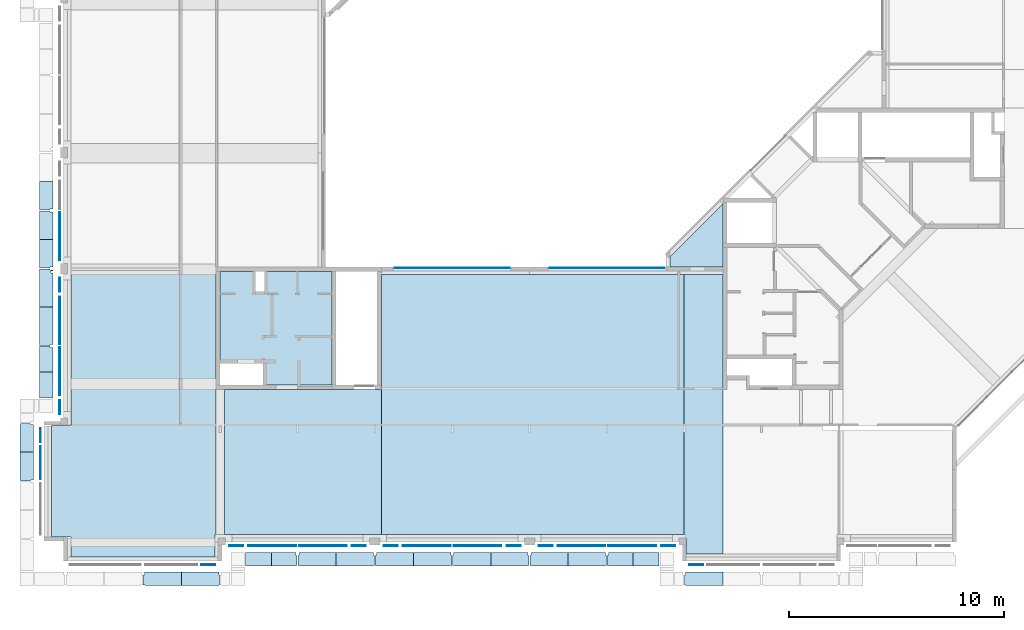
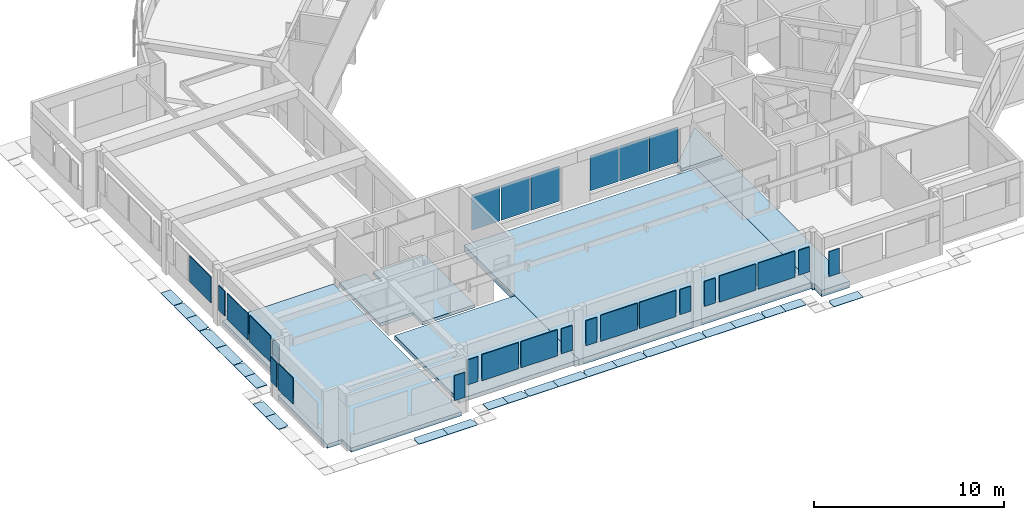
# One storey, part 4 of 26: 30 slabs, 27 plates.
"""IFC4X3_ADD2 building model written with IfcOpenShell, lengths in millimetres."""

from ifc_helpers import new_model, si_unit, direction, frame, frame_2d, origin_with_axes, origin_2d_with_axis, place, context, subcontext, project, spatial, polyline, rectangle, outline, extrude, source, transform, mapped, material, type_object, element, save


model = new_model("IFC4X3_ADD2")

# Units and contexts
model_context = context("Model", 3, precision=1e-05, world=origin_with_axes(), true_north=direction((0.0, 1.0)))
body_context = subcontext(model_context, "Body", "Model", "MODEL_VIEW")
ifc_project = project(units=[si_unit("LENGTHUNIT", "METRE", prefix="MILLI"), si_unit("AREAUNIT", "SQUARE_METRE"), si_unit("VOLUMEUNIT", "CUBIC_METRE"), si_unit("PLANEANGLEUNIT", "RADIAN"), si_unit("TIMEUNIT", "SECOND"), si_unit("MASSUNIT", "GRAM")], contexts=[model_context])

# Site, building, storey
site_placement = place(None, origin_with_axes())
site = spatial("IfcSite", under=ifc_project, at=site_placement, Name="Site", CompositionType="ELEMENT")
building_placement = place(site_placement, origin_with_axes())
building = spatial("IfcBuilding", under=site, at=building_placement, Name="IFC Building Story")
storey_placement = place(building_placement, frame((0.0, 0.0, 7200.0), z_axis=(0.0, 0.0, 1.0), x_axis=(1.0, 0.0, 0.0)))
storey = spatial("IfcBuildingStorey", under=building, at=storey_placement, Name="020", Elevation=7200.0)

# Slabs
ifc_material_1 = material(Name="BB_Beton_Bestaand")
slab_type_1 = type_object("IfcSlabType", Name="BB_Beton_Bestaand 200", PredefinedType="FLOOR", material=ifc_material_1)
slab_1_placement = place(storey_placement, frame((-43500.00000000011, 12500.00406588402, -280.0), z_axis=(0.0, 0.0, 1.0), x_axis=(0.0, -1.0, 0.0)))
element("IfcSlab", 1, at=slab_1_placement, inside=storey, type_object=slab_type_1, Name="Floor:BB_XX_Vloer uit beton, 200 mm", ObjectType="Floor:BB_XX_Vloer uit beton, 200 mm", PredefinedType="FLOOR", context=body_context, shape_type="SweptSolid", body=[
    extrude(outline(polyline([(3190.00243953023, -181.9999999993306), (2190.00243953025, -181.9999999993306), (2190.00243953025, -2182.000000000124), (-2110.00162635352, -2182.000000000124), (-2110.00162635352, -532.0000000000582), (-1160.001626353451, -532.0000000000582), (-1160.001626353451, -122.0000000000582), (-2110.001626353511, -122.0000000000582), (-2110.00162635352, 3017.999999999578), (3190.00243953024, 3017.999999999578), (3190.00243953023, -181.9999999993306)])), frame((2110.00162635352, 2182.000000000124, 0.0), z_axis=(0.0, 0.0, 1.0), x_axis=(1.0, 0.0, 0.0)), (0.0, 0.0, 1.0), 200.0),
])
slab_2_placement = place(storey_placement, frame((-20099.99999999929, 15635.57209645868, -400.0), z_axis=(0.0, 0.0, 1.0), x_axis=(-0.7071067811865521, -0.707106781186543, 0.0)))
element("IfcSlab", 2, at=slab_2_placement, inside=storey, type_object=slab_type_1, Name="Floor:BB_XX_Vloer uit beton, 200 mm:2", ObjectType="Floor:BB_XX_Vloer uit beton, 200 mm", PredefinedType="FLOOR", context=body_context, shape_type="SweptSolid", body=[
    extrude(outline(polyline([(-262.2344113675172, 1473.608533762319), (1473.608533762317, -262.234411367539), (1130.155883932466, -605.6870611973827), (-2341.530006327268, -605.6870611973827), (-262.2344113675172, 1473.608533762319)])), frame((2341.530006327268, 605.6870611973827, 0.0), z_axis=(0.0, 0.0, 1.0), x_axis=(1.0, 0.0, 0.0)), (0.0, 0.0, 1.0), 200.0),
])
slab_type_2 = type_object("IfcSlabType", Name="BB_Beton_Bestaand 400", PredefinedType="FLOOR", material=ifc_material_1)
slab_3_placement = place(storey_placement, frame((-36000.00000000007, 244.9999999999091, -600.0), z_axis=(0.0, 0.0, 1.0), x_axis=(1.0, 0.0, 0.0)))
element("IfcSlab", 3, at=slab_3_placement, inside=storey, type_object=slab_type_2, Name="Floor:BB_XX_Vloer welfsels, 400 mm", ObjectType="Floor:BB_XX_Vloer welfsels, 400 mm", PredefinedType="FLOOR", context=body_context, shape_type="SweptSolid", body=[
    extrude(rectangle(XDim=14100.00000000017, YDim=12110.0000000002, at=origin_2d_with_axis()), frame((7050.00000000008, 6055.000000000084, 0.0), z_axis=(0.0, 0.0, 1.0), x_axis=(1.0, 0.0, 0.0)), (0.0, 0.0, 1.0), 400.0),
])
slab_4_placement = place(storey_placement, frame((-21900.00000000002, 12360.00406588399, -600.0), z_axis=(0.0, 0.0, 1.0), x_axis=(0.0, -1.0, 0.0)))
element("IfcSlab", 4, at=slab_4_placement, inside=storey, type_object=slab_type_2, Name="Floor:BB_XX_Vloer welfsels, 400 mm", ObjectType="Floor:BB_XX_Vloer welfsels, 400 mm", PredefinedType="FLOOR", context=body_context, shape_type="SweptSolid", body=[
    extrude(outline(polyline([(4588.334688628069, -536.6666666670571), (3838.3346886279, -536.6666666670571), (3838.3346886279, -631.6666666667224), (-8426.66937725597, -631.6666666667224), (-8426.66937725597, 1168.33333333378), (4588.334688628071, 1168.33333333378), (4588.334688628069, -536.6666666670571)])), frame((8426.66937725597, 631.6666666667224, 0.0), z_axis=(0.0, 0.0, 1.0), x_axis=(1.0, 0.0, 0.0)), (0.0, 0.0, 1.0), 400.0),
])

# Plates
ifc_material_2 = material(Name="BB_Glas")
shared_shape_1 = source(origin_with_axes(), body_context, "Body", "SweptSolid", [
    extrude(rectangle(XDim=1602.000000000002, YDim=652.000000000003, at=frame_2d((0.0, 0.0), x_axis=(0.0, 1.0))), frame((0.0, 0.0, -44.0), z_axis=(0.0, 0.0, 1.0), x_axis=(1.0, 0.0, 0.0)), (0.0, 0.0, 1.0), 44.0),
])
for number, where, z_axis, x_axis in (
    (5, (-28356.0, -287.499999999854, 1765.0), (0.0, -1.0, 0.0), (1.0, 0.0, 0.0)),
    (6, (-22644.0, -287.499999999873, 1765.0), (0.0, -1.0, 0.0), (1.0, 0.0, 0.0)),
    (7, (-21336.0, -1187.50000000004, 1765.0), (0.0, -1.0, 0.0), (1.0, 0.0, 0.0)),
    (8, (-35556.0, -287.499999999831, 1765.0), (0.0, -1.0, 0.0), (1.0, 0.0, 0.0)),
    (9, (-29844.0, -287.49999999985, 1765.0), (0.0, -1.0, 0.0), (1.0, 0.0, 0.0)),
    (10, (-42756.0, -287.499999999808, 1765.0), (0.0, -1.0, 0.0), (1.0, 0.0, 0.0)),
    (11, (-37044.0, -287.499999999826, 1765.0), (0.0, -1.0, 0.0), (1.0, 0.0, 0.0)),
    (12, (-51887.5000000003, 4866.0, 1765.0), (-1.0, 0.0, 0.0), (0.0, -1.0, 0.0)),
    (13, (-50987.4999999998, 11886.0, 1765.0), (-1.0, 0.0, 0.0), (0.0, -1.0, 0.0)),
    (14, (-50987.4999999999, 6174.0, 1765.0), (-1.0, 0.0, 0.0), (0.0, -1.0, 0.0)),
):
    element("IfcPlate", number, at=place(storey_placement, frame(where, z_axis=z_axis, x_axis=x_axis)), inside=storey, material=ifc_material_2, Name="BB_07.06_Buitenbeglazing, rechthoekig_GMO:07.06.72#01_Drievoudige beglazing, 44 mm, A/A*/A", ObjectType="BB_07.06_Buitenbeglazing, rechthoekig_GMO:07.06.72#01_Drievoudige beglazing, 44 mm, A/A*/A", PredefinedType="USERDEFINED", context=body_context, shape_type="MappedRepresentation", body=[
        mapped(shared_shape_1, transform((0.0, 0.0, 0.0))),
    ])
shared_shape_2 = source(origin_with_axes(), body_context, "Body", "SweptSolid", [
    extrude(rectangle(XDim=2222.0, YDim=1680.000000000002, at=origin_2d_with_axis()), frame((0.0, 0.0, -44.0), z_axis=(0.0, 0.0, 1.0), x_axis=(1.0, 0.0, 0.0)), (0.0, 0.0, 1.0), 44.0),
])
for number, where, z_axis, x_axis in (
    (15, (-26681.0, -287.499999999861, 1765.0), (0.0, -1.0, 0.0), (1.0, 0.0, 0.0)),
    (16, (-24319.0, -287.499999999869, 1765.0), (0.0, -1.0, 0.0), (1.0, 0.0, 0.0)),
    (17, (-33881.0, -287.499999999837, 1765.0), (0.0, -1.0, 0.0), (1.0, 0.0, 0.0)),
    (18, (-31519.0, -287.499999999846, 1765.0), (0.0, -1.0, 0.0), (1.0, 0.0, 0.0)),
    (19, (-41081.0, -287.499999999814, 1765.0), (0.0, -1.0, 0.0), (1.0, 0.0, 0.0)),
    (20, (-38719.0, -287.499999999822, 1765.0), (0.0, -1.0, 0.0), (1.0, 0.0, 0.0)),
    (21, (-50987.4999999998, 10211.0, 1765.0), (-1.0, 0.0, 0.0), (0.0, -1.0, 0.0)),
    (22, (-50987.4999999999, 7849.0, 1765.0), (-1.0, 0.0, 0.0), (0.0, -1.0, 0.0)),
):
    element("IfcPlate", number, at=place(storey_placement, frame(where, z_axis=z_axis, x_axis=x_axis)), inside=storey, material=ifc_material_2, Name="BB_07.06_Buitenbeglazing, rechthoekig_GMO:07.06.72#01_Drievoudige beglazing, 44 mm, A/A*/A", ObjectType="BB_07.06_Buitenbeglazing, rechthoekig_GMO:07.06.72#01_Drievoudige beglazing, 44 mm, A/A*/A", PredefinedType="USERDEFINED", context=body_context, shape_type="MappedRepresentation", body=[
        mapped(shared_shape_2, transform((0.0, 0.0, 0.0))),
    ])
shared_shape_3 = source(origin_with_axes(), body_context, "Body", "SweptSolid", [
    extrude(rectangle(XDim=1602.000000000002, YDim=652.0000000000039, at=frame_2d((0.0, 0.0), x_axis=(0.0, 1.0))), frame((0.0, 0.0, -44.0), z_axis=(0.0, 0.0, 1.0), x_axis=(1.0, 0.0, 0.0)), (0.0, 0.0, 1.0), 44.0),
])
plate_1_placement = place(storey_placement, frame((-44064.0, -1187.49999999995, 1765.0), z_axis=(0.0, -1.0, 0.0), x_axis=(-1.0, 0.0, 0.0)))
element("IfcPlate", 23, at=plate_1_placement, inside=storey, material=ifc_material_2, Name="BB_07.06_Buitenbeglazing, rechthoekig_GMO:07.06.72#01_Drievoudige beglazing, 44 mm, A/A*/A", ObjectType="BB_07.06_Buitenbeglazing, rechthoekig_GMO:07.06.72#01_Drievoudige beglazing, 44 mm, A/A*/A", PredefinedType="USERDEFINED", context=body_context, shape_type="MappedRepresentation", body=[
    mapped(shared_shape_3, transform((0.0, 0.0, 0.0))),
])
shared_shape_4 = source(origin_with_axes(), body_context, "Body", "SweptSolid", [
    extrude(rectangle(XDim=1680.000000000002, YDim=1532.000000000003, at=frame_2d((0.0, 0.0), x_axis=(0.0, 1.0))), frame((0.0, 0.0, -44.0), z_axis=(0.0, 0.0, 1.0), x_axis=(1.0, 0.0, 0.0)), (0.0, 0.0, 1.0), 44.0),
])
plate_2_placement = place(storey_placement, frame((-51887.5000000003, 3596.0, 1765.0), z_axis=(-1.0, 0.0, 0.0), x_axis=(0.0, -1.0, 0.0)))
element("IfcPlate", 24, at=plate_2_placement, inside=storey, material=ifc_material_2, Name="BB_07.06_Buitenbeglazing, rechthoekig_GMO:07.06.72#01_Drievoudige beglazing, 44 mm, A/A*/A", ObjectType="BB_07.06_Buitenbeglazing, rechthoekig_GMO:07.06.72#01_Drievoudige beglazing, 44 mm, A/A*/A", PredefinedType="USERDEFINED", context=body_context, shape_type="MappedRepresentation", body=[
    mapped(shared_shape_4, transform((0.0, 0.0, 0.0))),
])
shared_shape_5 = source(origin_with_axes(), body_context, "Body", "SweptSolid", [
    extrude(rectangle(XDim=2250.0, YDim=1680.000000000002, at=origin_2d_with_axis()), frame((0.0, 0.0, -44.0), z_axis=(0.0, 0.0, 1.0), x_axis=(1.0, 0.0, 0.0)), (0.0, 0.0, 1.0), 44.0),
])
plate_3_placement = place(storey_placement, frame((-50987.4999999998, 14135.0, 1765.0), z_axis=(-1.0, 0.0, 0.0), x_axis=(0.0, 1.0, 0.0)))
element("IfcPlate", 25, at=plate_3_placement, inside=storey, material=ifc_material_2, Name="BB_07.06_Buitenbeglazing, rechthoekig_GMO:07.06.72#01_Drievoudige beglazing, 44 mm, A/A*/A", ObjectType="BB_07.06_Buitenbeglazing, rechthoekig_GMO:07.06.72#01_Drievoudige beglazing, 44 mm, A/A*/A", PredefinedType="USERDEFINED", context=body_context, shape_type="MappedRepresentation", body=[
    mapped(shared_shape_5, transform((0.0, 0.0, 0.0))),
])
shared_shape_6 = source(origin_with_axes(), body_context, "Body", "SweptSolid", [
    extrude(rectangle(XDim=2256.0, YDim=1736.000000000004, at=frame_2d((0.0, 0.0), x_axis=(0.0, 1.0))), frame((0.0, 0.0, -17.0), z_axis=(0.0, 0.0, 1.0), x_axis=(1.0, 0.0, 0.0)), (0.0, 0.0, 1.0), 17.0),
])
for number, where, z_axis, x_axis in (
    (26, (-25500.0, 12671.504065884, 1475.0), (0.0, 1.0, 0.0), (-1.0, 0.0, 0.0)),
    (27, (-23700.0, 12671.504065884, 1475.0), (0.0, 1.0, 0.0), (-1.0, 0.0, 0.0)),
    (28, (-32700.0, 12671.504065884, 1475.0), (0.0, 1.0, 0.0), (-1.0, 0.0, 0.0)),
    (29, (-30900.0, 12671.504065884, 1475.0), (0.0, 1.0, 0.0), (-1.0, 0.0, 0.0)),
    (30, (-27300.0, 12671.504065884, 1475.0), (0.0, 1.0, 0.0), (-1.0, 0.0, 0.0)),
    (31, (-34500.0, 12671.504065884, 1475.0), (0.0, 1.0, 0.0), (-1.0, 0.0, 0.0)),
):
    element("IfcPlate", number, at=place(storey_placement, frame(where, z_axis=z_axis, x_axis=x_axis)), inside=storey, material=ifc_material_2, Name="BB_10.10_Binnenbeglazing, rechthoekig_GMO:10.10.41#02_Enkelvoudige beglazing, 2B2, EI30, 40dB", ObjectType="BB_10.10_Binnenbeglazing, rechthoekig_GMO:10.10.41#02_Enkelvoudige beglazing, 2B2, EI30, 40dB", PredefinedType="USERDEFINED", context=body_context, shape_type="MappedRepresentation", body=[
        mapped(shared_shape_6, transform((0.0, 0.0, 0.0))),
    ])

# Slabs
slab_type_3 = type_object("IfcSlabType", Name="BB_Beton_Bestaand 260", PredefinedType="FLOOR", material=ifc_material_1)
slab_5_placement = place(storey_placement, frame((-51355.00000000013, 12700.00406588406, -460.0), z_axis=(0.0, 0.0, 1.0), x_axis=(0.0, -1.0, 0.0)))
element("IfcSlab", 32, at=slab_5_placement, inside=storey, type_object=slab_type_3, Name="Floor:BB_XX_Vloer welfsels, 260 mm", ObjectType="Floor:BB_XX_Vloer welfsels, 260 mm", PredefinedType="FLOOR", context=body_context, shape_type="SweptSolid", body=[
    extrude(outline(polyline([(4325.000813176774, -2513.000000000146), (3395.000813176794, -2513.000000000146), (3395.000813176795, -3413.000000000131), (-1814.999186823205, -3413.000000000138), (-1814.999186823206, -2512.999999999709), (-9180.003252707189, -2512.999999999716), (-9180.003252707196, 4242.000000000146), (3275.000813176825, 4242.000000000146), (3275.000813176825, 4196.999999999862), (4325.000813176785, 4196.999999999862), (4325.000813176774, -2513.000000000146)])), frame((9180.003252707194, 3413.000000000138, 0.0), z_axis=(0.0, 0.0, 1.0), x_axis=(1.0, 0.0, 0.0)), (0.0, 0.0, 1.0), 260.0),
])
slab_6_placement = place(storey_placement, frame((-43300.00000000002, 245.0, -460.0), z_axis=(0.0, 0.0, 1.0), x_axis=(1.0, 0.0, 0.0)))
element("IfcSlab", 33, at=slab_6_placement, inside=storey, type_object=slab_type_3, Name="Floor:BB_XX_Vloer welfsels, 260 mm", ObjectType="Floor:BB_XX_Vloer welfsels, 260 mm", PredefinedType="FLOOR", context=body_context, shape_type="SweptSolid", body=[
    extrude(rectangle(XDim=7300.000000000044, YDim=6755.00000000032, at=origin_2d_with_axis()), frame((3650.000000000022, 3377.50000000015, 0.0), z_axis=(0.0, 0.0, 1.0), x_axis=(1.0, 0.0, 0.0)), (0.0, 0.0, 1.0), 260.0),
])
ifc_material_3 = material(Name="Steel, Galvanized - looprooster")
slab_type_4 = type_object("IfcSlabType", Name="Steel, Galvanized - looprooster 30", PredefinedType="FLOOR", material=ifc_material_3)
slab_7_placement = place(storey_placement, frame((-51919.99839785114, 16679.99796376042, -350.0), z_axis=(0.0, 0.0, 1.0), x_axis=(0.0, -1.0, 0.0)))
element("IfcSlab", 34, at=slab_7_placement, inside=storey, type_object=slab_type_4, Name="Floor:GVH - Looprooster 30 mm", ObjectType="Floor:GVH - Looprooster 30 mm", PredefinedType="FLOOR", context=body_context, shape_type="SweptSolid", body=[
    extrude(outline(polyline([(368.499500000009, -267.5006947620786), (281.4995000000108, -267.5006947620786), (281.4995000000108, -282.4989546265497), (-966.4985000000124, -282.4989546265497), (-966.4985000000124, 347.5010453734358), (316.4995000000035, 347.5010453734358), (316.4995000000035, 202.498604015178), (368.499500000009, 202.498604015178), (368.499500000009, -267.5006947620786)])), frame((966.4985000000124, 282.4989546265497, 0.0), z_axis=(0.0, 0.0, 1.0), x_axis=(1.0, 0.0, 0.0)), (0.0, 0.0, 1.0), 29.99999999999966),
])
slab_8_placement = place(storey_placement, frame((-52819.99783771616, 4080.001963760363, -350.0), z_axis=(0.0, 0.0, 1.0), x_axis=(0.0, -1.0, 0.0)))
element("IfcSlab", 35, at=slab_8_placement, inside=storey, type_object=slab_type_4, Name="Floor:GVH - Looprooster 30 mm", ObjectType="Floor:GVH - Looprooster 30 mm", PredefinedType="FLOOR", context=body_context, shape_type="SweptSolid", body=[
    extrude(outline(polyline([(368.5004999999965, -267.5009748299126), (281.5004999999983, -267.5009748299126), (281.5004999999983, -282.4986745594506), (-966.5014999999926, -282.4986745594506), (-966.5014999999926, 347.5013254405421), (316.5004999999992, 347.5013254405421), (316.5004999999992, 202.4983239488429), (368.5004999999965, 202.4983239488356), (368.5004999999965, -267.5009748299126)])), frame((966.5014999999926, 282.4986745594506, 0.0), z_axis=(0.0, 0.0, 1.0), x_axis=(1.0, 0.0, 0.0)), (0.0, 0.0, 1.0), 29.99999999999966),
])
slab_9_placement = place(storey_placement, frame((-41122.49796376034, -1219.998397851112, -350.0), z_axis=(0.0, 0.0, 1.0), x_axis=(1.0, 0.0, 0.0)))
element("IfcSlab", 36, at=slab_9_placement, inside=storey, type_object=slab_type_4, Name="Floor:GVH - Looprooster 30 mm", ObjectType="Floor:GVH - Looprooster 30 mm", PredefinedType="FLOOR", context=body_context, shape_type="SweptSolid", body=[
    extrude(outline(polyline([(275.874500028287, -267.4995632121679), (275.874500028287, -282.4992199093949), (-879.6235000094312, -282.4992199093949), (-879.6235000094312, 347.5004367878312), (275.8744999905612, 347.5004367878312), (275.8744999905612, 202.4983463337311), (327.8744999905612, 202.4983463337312), (327.8744999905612, -267.4995632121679), (275.874500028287, -267.4995632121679)])), frame((879.6235000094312, 282.4992199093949, 0.0), z_axis=(0.0, 0.0, 1.0), x_axis=(1.0, 0.0, 0.0)), (0.0, 0.0, 1.0), 29.99999999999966),
])
slab_10_placement = place(storey_placement, frame((-38100.00196372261, -1219.99839785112, -350.0), z_axis=(0.0, 0.0, 1.0), x_axis=(1.0, 0.0, 0.0)))
element("IfcSlab", 37, at=slab_10_placement, inside=storey, type_object=slab_type_4, Name="Floor:GVH - Looprooster 30 mm", ObjectType="Floor:GVH - Looprooster 30 mm", PredefinedType="FLOOR", context=body_context, shape_type="SweptSolid", body=[
    extrude(outline(polyline([(420.0005000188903, -267.499561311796), (420.0005000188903, -282.499218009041), (-1313.001499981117, -282.499218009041), (-1313.001499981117, 347.500438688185), (420.5004999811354, 347.500438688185), (420.5004999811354, 202.498340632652), (472.5004999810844, 202.498340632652), (472.5004999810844, -267.499561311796), (420.0005000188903, -267.499561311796)])), frame((1313.001499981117, 282.499218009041, 0.0), z_axis=(0.0, 0.0, 1.0), x_axis=(1.0, 0.0, 0.0)), (0.0, 0.0, 1.0), 29.99999999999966),
])
slab_11_placement = place(storey_placement, frame((-51919.99797688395, 13979.49796376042, -350.0), z_axis=(0.0, 0.0, 1.0), x_axis=(0.0, -1.0, 0.0)))
element("IfcSlab", 38, at=slab_11_placement, inside=storey, type_object=slab_type_4, Name="Floor:GVH - Looprooster 30 mm", ObjectType="Floor:GVH - Looprooster 30 mm", PredefinedType="FLOOR", context=body_context, shape_type="SweptSolid", body=[
    extrude(outline(polyline([(359.624449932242, -267.5006947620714), (307.6246502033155, -267.5006947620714), (307.6246502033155, -282.4989546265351), (-974.873550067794, -282.4989546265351), (-974.873550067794, 347.5010453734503), (307.6244499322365, 347.5010453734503), (307.6244499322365, 202.4986040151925), (359.624449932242, 202.4986040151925), (359.624449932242, -267.5006947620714)])), frame((974.873550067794, 282.4989546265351, 0.0), z_axis=(0.0, 0.0, 1.0), x_axis=(1.0, 0.0, 0.0)), (0.0, 0.0, 1.0), 29.99999999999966),
])
slab_12_placement = place(storey_placement, frame((-51919.99797688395, 15314.99596376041, -350.0), z_axis=(0.0, 0.0, 1.0), x_axis=(0.0, -1.0, 0.0)))
element("IfcSlab", 39, at=slab_12_placement, inside=storey, type_object=slab_type_4, Name="Floor:GVH - Looprooster 30 mm", ObjectType="Floor:GVH - Looprooster 30 mm", PredefinedType="FLOOR", context=body_context, shape_type="SweptSolid", body=[
    extrude(outline(polyline([(-316.4974999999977, 347.5010453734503), (966.4964999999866, 347.5010453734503), (966.4964999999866, -282.4989546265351), (-281.5014999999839, -282.4989546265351), (-281.5014999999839, -267.5006947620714), (-368.4975000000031, -267.5006947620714), (-368.4975000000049, 202.4986040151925), (-316.4974999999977, 202.4986040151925), (-316.4974999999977, 347.5010453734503)])), frame((368.4975000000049, 282.4989546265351, 0.0), z_axis=(0.0, 0.0, 1.0), x_axis=(1.0, 0.0, 0.0)), (0.0, 0.0, 1.0), 29.99999999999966),
])
slab_13_placement = place(storey_placement, frame((-51919.99839785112, 12614.99596376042, -350.0), z_axis=(0.0, 0.0, 1.0), x_axis=(0.0, -1.0, 0.0)))
element("IfcSlab", 40, at=slab_13_placement, inside=storey, type_object=slab_type_4, Name="Floor:GVH - Looprooster 30 mm", ObjectType="Floor:GVH - Looprooster 30 mm", PredefinedType="FLOOR", context=body_context, shape_type="SweptSolid", body=[
    extrude(outline(polyline([(-178.0816339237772, 246.667989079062), (1421.412366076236, 246.667989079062), (1421.412366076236, -383.3320109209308), (-311.0858303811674, -383.3320109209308), (-311.0858303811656, -368.3342997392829), (-363.0816339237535, -368.3342997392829), (-363.0816339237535, 101.6655477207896), (-311.0816339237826, 101.6655477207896), (-311.0816339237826, 246.667989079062), (-258.0816339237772, 246.667989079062), (-258.0816339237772, 156.6647847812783), (-178.0816339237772, 156.6647847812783), (-178.0816339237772, 246.667989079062)])), frame((363.0816339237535, 383.3320109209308, 0.0), z_axis=(0.0, 0.0, 1.0), x_axis=(1.0, 0.0, 0.0)), (0.0, 0.0, 1.0), 29.9999999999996),
])
slab_14_placement = place(storey_placement, frame((-51919.99839785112, 10829.49796185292, -350.0), z_axis=(0.0, 0.0, 1.0), x_axis=(0.0, -1.0, 0.0)))
element("IfcSlab", 41, at=slab_14_placement, inside=storey, type_object=slab_type_4, Name="Floor:GVH - Looprooster 30 mm", ObjectType="Floor:GVH - Looprooster 30 mm", PredefinedType="FLOOR", context=body_context, shape_type="SweptSolid", body=[
    extrude(outline(polyline([(472.1264494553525, -267.5017166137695), (420.1226497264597, -267.5017166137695), (420.1226497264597, -282.4994277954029), (-1312.375548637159, -282.4994277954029), (-1312.375548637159, 347.5005722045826), (420.126449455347, 347.5005722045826), (420.126449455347, 202.5005722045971), (472.1264494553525, 202.5005722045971), (472.1264494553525, -267.5017166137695)])), frame((1312.375548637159, 282.4994277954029, 0.0), z_axis=(0.0, 0.0, 1.0), x_axis=(1.0, 0.0, 0.0)), (0.0, 0.0, 1.0), 29.99999999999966),
])
slab_15_placement = place(storey_placement, frame((-51919.99595649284, 9014.999963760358, -350.0), z_axis=(0.0, 0.0, 1.0), x_axis=(0.0, -1.0, 0.0)))
element("IfcSlab", 42, at=slab_15_placement, inside=storey, type_object=slab_type_4, Name="Floor:GVH - Looprooster 30 mm", ObjectType="Floor:GVH - Looprooster 30 mm", PredefinedType="FLOOR", context=body_context, shape_type="SweptSolid", body=[
    extrude(outline(polyline([(-275.8744513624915, 347.501045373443), (879.6235505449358, 347.501045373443), (879.6235505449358, -282.4989546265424), (-275.8746478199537, -282.4989546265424), (-275.8746478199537, -267.5006947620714), (-327.8744513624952, -267.5006947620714), (-327.8744513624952, 202.4986040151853), (-275.8744513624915, 202.4986040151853), (-275.8744513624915, 347.501045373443)])), frame((327.8744513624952, 282.4989546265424, 0.0), z_axis=(0.0, 0.0, 1.0), x_axis=(1.0, 0.0, 0.0)), (0.0, 0.0, 1.0), 29.99999999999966),
])
slab_16_placement = place(storey_placement, frame((-51919.99595649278, 7806.499258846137, -350.0), z_axis=(0.0, 0.0, 1.0), x_axis=(0.0, -1.0, 0.0)))
element("IfcSlab", 43, at=slab_16_placement, inside=storey, type_object=slab_type_4, Name="Floor:GVH - Looprooster 30 mm", ObjectType="Floor:GVH - Looprooster 30 mm", PredefinedType="FLOOR", context=body_context, shape_type="SweptSolid", body=[
    extrude(rectangle(XDim=1207.998000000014, YDim=629.9999999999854, at=frame_2d((0.0, 0.0), x_axis=(-1.0, 0.0))), frame((603.9990000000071, 314.9999999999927, 0.0), z_axis=(0.0, 0.0, 1.0), x_axis=(1.0, 0.0, 0.0)), (0.0, 0.0, 1.0), 29.99999999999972),
])
slab_17_placement = place(storey_placement, frame((-36285.00000000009, -1219.99839785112, -350.0), z_axis=(0.0, 0.0, 1.0), x_axis=(1.0, 0.0, 0.0)))
element("IfcSlab", 44, at=slab_17_placement, inside=storey, type_object=slab_type_4, Name="Floor:GVH - Looprooster 30 mm", ObjectType="Floor:GVH - Looprooster 30 mm", PredefinedType="FLOOR", context=body_context, shape_type="SweptSolid", body=[
    extrude(outline(polyline([(-420.2494637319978, -282.499218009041), (-420.2494637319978, -267.499561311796), (-472.2495000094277, -267.499561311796), (-472.2495000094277, 202.498340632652), (-420.2495362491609, 202.498340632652), (-420.2495362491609, 347.500438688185), (1312.748499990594, 347.500438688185), (1312.748499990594, -282.499218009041), (-420.2494637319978, -282.499218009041)])), frame((472.2495000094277, 282.499218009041, 0.0), z_axis=(0.0, 0.0, 1.0), x_axis=(1.0, 0.0, 0.0)), (0.0, 0.0, 1.0), 29.99999999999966),
])
slab_18_placement = place(storey_placement, frame((-32684.99996376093, -1219.998390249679, -350.0), z_axis=(0.0, 0.0, 1.0), x_axis=(1.0, 0.0, 0.0)))
element("IfcSlab", 45, at=slab_18_placement, inside=storey, type_object=slab_type_4, Name="Floor:GVH - Looprooster 30 mm", ObjectType="Floor:GVH - Looprooster 30 mm", PredefinedType="FLOOR", context=body_context, shape_type="SweptSolid", body=[
    extrude(outline(polyline([(-394.2494999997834, -282.4992180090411), (-394.2494999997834, -267.4995613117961), (-480.7495000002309, -267.4995613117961), (-480.7495000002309, 202.4983406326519), (-428.7495000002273, 202.4983406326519), (-428.7495000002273, 347.5004386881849), (1303.74850000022, 347.5004386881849), (1303.74850000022, -282.4992180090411), (-394.2494999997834, -282.4992180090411)])), frame((480.7495000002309, 282.4992180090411, 0.0), z_axis=(0.0, 0.0, 1.0), x_axis=(1.0, 0.0, 0.0)), (0.0, 0.0, 1.0), 29.99999999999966),
])
slab_19_placement = place(storey_placement, frame((-29085.49996376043, -1219.99839785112, -350.0), z_axis=(0.0, 0.0, 1.0), x_axis=(1.0, 0.0, 0.0)))
element("IfcSlab", 46, at=slab_19_placement, inside=storey, type_object=slab_type_4, Name="Floor:GVH - Looprooster 30 mm", ObjectType="Floor:GVH - Looprooster 30 mm", PredefinedType="FLOOR", context=body_context, shape_type="SweptSolid", body=[
    extrude(outline(polyline([(-420.1244728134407, -282.499218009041), (-420.1244728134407, -267.499561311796), (-472.6244728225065, -267.499561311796), (-472.6244728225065, 202.498340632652), (-420.1245453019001, 202.498340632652), (-420.1245453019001, 347.500438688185), (1312.873490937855, 347.500438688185), (1312.873490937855, -282.499218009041), (-420.1244728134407, -282.499218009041)])), frame((472.6244728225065, 282.499218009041, 0.0), z_axis=(0.0, 0.0, 1.0), x_axis=(1.0, 0.0, 0.0)), (0.0, 0.0, 1.0), 29.99999999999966),
])
slab_20_placement = place(storey_placement, frame((-25484.99996376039, -1219.998397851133, -350.0), z_axis=(0.0, 0.0, 1.0), x_axis=(1.0, 0.0, 0.0)))
element("IfcSlab", 47, at=slab_20_placement, inside=storey, type_object=slab_type_4, Name="Floor:GVH - Looprooster 30 mm", ObjectType="Floor:GVH - Looprooster 30 mm", PredefinedType="FLOOR", context=body_context, shape_type="SweptSolid", body=[
    extrude(outline(polyline([(-275.8744909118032, -282.4992180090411), (-275.8744909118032, -267.4995613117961), (-327.8744909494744, -267.4995613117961), (-327.8744909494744, 202.4983406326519), (-275.8745271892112, 202.4983406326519), (-275.8745271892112, 347.5004386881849), (879.6235090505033, 347.5004386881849), (879.6235090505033, -282.4992180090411), (-275.8744909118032, -282.4992180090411)])), frame((327.8744909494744, 282.4992180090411, 0.0), z_axis=(0.0, 0.0, 1.0), x_axis=(1.0, 0.0, 0.0)), (0.0, 0.0, 1.0), 29.99999999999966),
])
slab_21_placement = place(storey_placement, frame((-39884.99996372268, -1219.99839785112, -350.0), z_axis=(0.0, 0.0, 1.0), x_axis=(1.0, 0.0, 0.0)))
element("IfcSlab", 48, at=slab_21_placement, inside=storey, type_object=slab_type_4, Name="Floor:GVH - Looprooster 30 mm", ObjectType="Floor:GVH - Looprooster 30 mm", PredefinedType="FLOOR", context=body_context, shape_type="SweptSolid", body=[
    extrude(outline(polyline([(-420.1254818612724, -282.499218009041), (-420.1254818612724, -267.499561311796), (-472.1254818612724, -267.499561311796), (-472.1254818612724, 202.498340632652), (-420.121554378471, 202.498340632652), (-420.121554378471, 347.500438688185), (1312.372518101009, 347.500438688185), (1312.372518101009, -282.499218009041), (-420.1254818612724, -282.499218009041)])), frame((472.1254818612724, 282.499218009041, 0.0), z_axis=(0.0, 0.0, 1.0), x_axis=(1.0, 0.0, 0.0)), (0.0, 0.0, 1.0), 29.99999999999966),
])
slab_22_placement = place(storey_placement, frame((-34499.49796376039, -1219.99839785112, -350.0), z_axis=(0.0, 0.0, 1.0), x_axis=(1.0, 0.0, 0.0)))
element("IfcSlab", 49, at=slab_22_placement, inside=storey, type_object=slab_type_4, Name="Floor:GVH - Looprooster 30 mm", ObjectType="Floor:GVH - Looprooster 30 mm", PredefinedType="FLOOR", context=body_context, shape_type="SweptSolid", body=[
    extrude(outline(polyline([(394.2495000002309, -267.499561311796), (394.2495000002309, -282.499218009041), (-1303.748499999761, -282.499218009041), (-1303.748499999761, 347.500438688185), (428.7494999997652, 347.500438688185), (428.7494999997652, 202.498340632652), (480.7494999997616, 202.498340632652), (480.7494999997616, -267.499561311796), (394.2495000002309, -267.499561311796)])), frame((1303.748499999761, 282.499218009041, 0.0), z_axis=(0.0, 0.0, 1.0), x_axis=(1.0, 0.0, 0.0)), (0.0, 0.0, 1.0), 29.99999999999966),
])
slab_23_placement = place(storey_placement, frame((-30900.00196376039, -1219.998390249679, -350.0), z_axis=(0.0, 0.0, 1.0), x_axis=(1.0, 0.0, 0.0)))
element("IfcSlab", 50, at=slab_23_placement, inside=storey, type_object=slab_type_4, Name="Floor:GVH - Looprooster 30 mm", ObjectType="Floor:GVH - Looprooster 30 mm", PredefinedType="FLOOR", context=body_context, shape_type="SweptSolid", body=[
    extrude(outline(polyline([(420.2524909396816, -267.4995613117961), (420.2524909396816, -282.4992180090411), (-1312.749509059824, -282.4992180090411), (-1312.749509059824, 347.5004386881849), (420.2485271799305, 347.5004386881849), (420.2485271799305, 202.4983406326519), (472.2484909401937, 202.4983406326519), (472.2484909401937, -267.4995613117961), (420.2524909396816, -267.4995613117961)])), frame((1312.749509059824, 282.4992180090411, 0.0), z_axis=(0.0, 0.0, 1.0), x_axis=(1.0, 0.0, 0.0)), (0.0, 0.0, 1.0), 29.99999999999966),
])
slab_24_placement = place(storey_placement, frame((-27300.00200000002, -1219.99839785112, -350.0), z_axis=(0.0, 0.0, 1.0), x_axis=(1.0, 0.0, 0.0)))
element("IfcSlab", 51, at=slab_24_placement, inside=storey, type_object=slab_type_4, Name="Floor:GVH - Looprooster 30 mm", ObjectType="Floor:GVH - Looprooster 30 mm", PredefinedType="FLOOR", context=body_context, shape_type="SweptSolid", body=[
    extrude(outline(polyline([(420.2505090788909, -267.499561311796), (420.2505090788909, -282.499218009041), (-1312.751527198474, -282.499218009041), (-1312.751527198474, 347.500438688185), (420.250509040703, 347.500438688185), (420.250509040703, 202.498340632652), (472.2505090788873, 202.498340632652), (472.2505090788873, -267.499561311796), (420.2505090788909, -267.499561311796)])), frame((1312.751527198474, 282.499218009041, 0.0), z_axis=(0.0, 0.0, 1.0), x_axis=(1.0, 0.0, 0.0)), (0.0, 0.0, 1.0), 29.99999999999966),
])
slab_25_placement = place(storey_placement, frame((-42331.5001068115, -1219.998397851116, -350.0), z_axis=(0.0, 0.0, 1.0), x_axis=(1.0, 0.0, 0.0)))
element("IfcSlab", 52, at=slab_25_placement, inside=storey, type_object=slab_type_4, Name="Floor:GVH - Looprooster 30 mm", ObjectType="Floor:GVH - Looprooster 30 mm", PredefinedType="FLOOR", context=body_context, shape_type="SweptSolid", body=[
    extrude(rectangle(XDim=1207.998000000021, YDim=629.9996566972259, at=origin_2d_with_axis()), frame((603.9990000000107, 314.9998283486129, 0.0), z_axis=(0.0, 0.0, 1.0), x_axis=(1.0, 0.0, 0.0)), (0.0, 0.0, 1.0), 29.99999999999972),
])
slab_26_placement = place(storey_placement, frame((-24276.49810681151, -1219.998397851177, -350.0), z_axis=(0.0, 0.0, 1.0), x_axis=(1.0, 0.0, 0.0)))
element("IfcSlab", 53, at=slab_26_placement, inside=storey, type_object=slab_type_4, Name="Floor:GVH - Looprooster 30 mm", ObjectType="Floor:GVH - Looprooster 30 mm", PredefinedType="FLOOR", context=body_context, shape_type="SweptSolid", body=[
    extrude(rectangle(XDim=1207.998000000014, YDim=629.9996566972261, at=origin_2d_with_axis()), frame((603.9990000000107, 314.9998283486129, 0.0), z_axis=(0.0, 0.0, 1.0), x_axis=(1.0, 0.0, 0.0)), (0.0, 0.0, 1.0), 29.99999999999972),
])
slab_27_placement = place(storey_placement, frame((-52819.99783771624, 5415.003963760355, -350.0), z_axis=(0.0, 0.0, 1.0), x_axis=(0.0, -1.0, 0.0)))
element("IfcSlab", 54, at=slab_27_placement, inside=storey, type_object=slab_type_4, Name="Floor:GVH - Looprooster 30 mm", ObjectType="Floor:GVH - Looprooster 30 mm", PredefinedType="FLOOR", context=body_context, shape_type="SweptSolid", body=[
    extrude(outline(polyline([(-307.6264513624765, 347.5013254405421), (974.8755505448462, 347.5013254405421), (974.8755505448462, -282.4986745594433), (-307.6226478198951, -282.4986745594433), (-307.6226478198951, -267.5009748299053), (-359.6264513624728, -267.5009748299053), (-359.6264513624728, 202.4983239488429), (-307.6264513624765, 202.4983239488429), (-307.6264513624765, 347.5013254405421)])), frame((359.6264513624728, 282.4986745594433, 0.0), z_axis=(0.0, 0.0, 1.0), x_axis=(1.0, 0.0, 0.0)), (0.0, 0.0, 1.0), 29.99999999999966),
])
slab_28_placement = place(storey_placement, frame((-47084.99839785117, -2119.998397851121, -350.0), z_axis=(0.0, 0.0, 1.0), x_axis=(1.0, 0.0, 0.0)))
element("IfcSlab", 55, at=slab_28_placement, inside=storey, type_object=slab_type_4, Name="Floor:GVH - Looprooster 30 mm", ObjectType="Floor:GVH - Looprooster 30 mm", PredefinedType="FLOOR", context=body_context, shape_type="SweptSolid", body=[
    extrude(outline(polyline([(-393.9993836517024, -282.499218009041), (-393.9993836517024, -267.499561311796), (-480.9995267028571, -267.499561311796), (-480.9995267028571, 202.4983406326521), (-428.9995629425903, 202.4983406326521), (-428.9995629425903, 347.5004386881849), (1303.998473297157, 347.5004386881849), (1303.998473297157, -282.499218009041), (-393.9993836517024, -282.499218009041)])), frame((480.9995267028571, 282.499218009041, 0.0), z_axis=(0.0, 0.0, 1.0), x_axis=(1.0, 0.0, 0.0)), (0.0, 0.0, 1.0), 29.99999999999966),
])
slab_29_placement = place(storey_placement, frame((-45300.00039785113, -2119.998397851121, -350.0), z_axis=(0.0, 0.0, 1.0), x_axis=(1.0, 0.0, 0.0)))
element("IfcSlab", 56, at=slab_29_placement, inside=storey, type_object=slab_type_4, Name="Floor:GVH - Looprooster 30 mm", ObjectType="Floor:GVH - Looprooster 30 mm", PredefinedType="FLOOR", context=body_context, shape_type="SweptSolid", body=[
    extrude(outline(polyline([(420.2513165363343, -267.4995613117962), (420.2513165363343, -282.4992180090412), (-1312.749117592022, -282.4992180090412), (-1312.749117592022, 347.5004386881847), (420.2489186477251, 347.5004386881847), (420.2489186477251, 202.4983406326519), (472.2488824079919, 202.4983406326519), (472.2488824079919, -267.4995613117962), (420.2513165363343, -267.4995613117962)])), frame((1312.749117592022, 282.4992180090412, 0.0), z_axis=(0.0, 0.0, 1.0), x_axis=(1.0, 0.0, 0.0)), (0.0, 0.0, 1.0), 29.99999999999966),
])
slab_30_placement = place(storey_placement, frame((-21884.99996372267, -2119.998390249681, -350.0), z_axis=(0.0, 0.0, 1.0), x_axis=(1.0, 0.0, 0.0)))
element("IfcSlab", 57, at=slab_30_placement, inside=storey, type_object=slab_type_4, Name="Floor:GVH - Looprooster 30 mm", ObjectType="Floor:GVH - Looprooster 30 mm", PredefinedType="FLOOR", context=body_context, shape_type="SweptSolid", body=[
    extrude(outline(polyline([(-419.9994728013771, -282.4992180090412), (-419.9994728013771, -267.4995613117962), (-471.9994728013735, -267.4995613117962), (-471.9994728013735, 202.4983406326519), (-420.4995453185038, 202.4983406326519), (-420.4995453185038, 347.5004386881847), (1312.498490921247, 347.5004386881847), (1312.498490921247, -282.4992180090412), (-419.9994728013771, -282.4992180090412)])), frame((471.9994728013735, 282.4992180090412, 0.0), z_axis=(0.0, 0.0, 1.0), x_axis=(1.0, 0.0, 0.0)), (0.0, 0.0, 1.0), 29.99999999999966),
])

save(model, "model.ifc")
